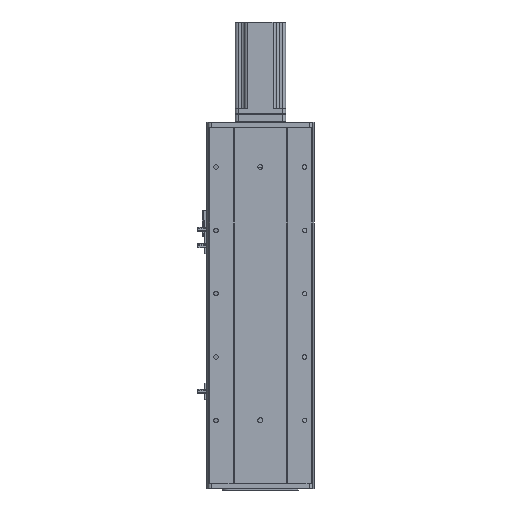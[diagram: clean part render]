
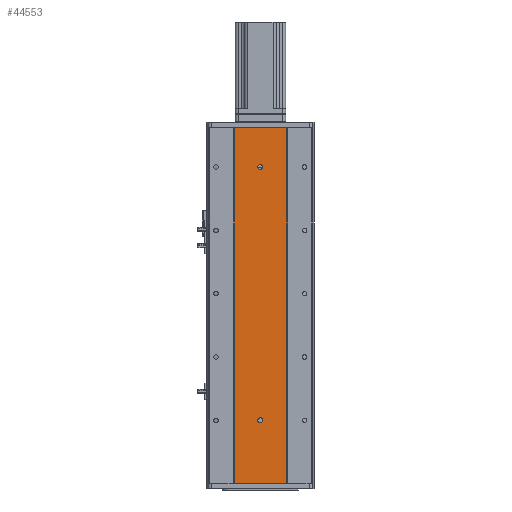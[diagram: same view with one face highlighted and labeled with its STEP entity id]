
A CAD part, front view. The second image highlights one B-rep face of the part: STEP entity #44553.
In plain terms, the highlighted planar face has unit normal (0, -1, 0).
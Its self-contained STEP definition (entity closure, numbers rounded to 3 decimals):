
#473 = ORIENTED_EDGE ( 'NONE', *, *, #31715, .T. ) ;
#491 = ORIENTED_EDGE ( 'NONE', *, *, #2208, .T. ) ;
#494 = ORIENTED_EDGE ( 'NONE', *, *, #1950, .F. ) ;
#501 = ORIENTED_EDGE ( 'NONE', *, *, #2195, .T. ) ;
#504 = ORIENTED_EDGE ( 'NONE', *, *, #2064, .T. ) ;
#525 = ORIENTED_EDGE ( 'NONE', *, *, #2193, .T. ) ;
#539 = ORIENTED_EDGE ( 'NONE', *, *, #31731, .T. ) ;
#545 = ORIENTED_EDGE ( 'NONE', *, *, #2186, .F. ) ;
#1950 = EDGE_CURVE ( 'NONE', #54570, #54618, #62409, .T. ) ;
#2064 = EDGE_CURVE ( 'NONE', #54774, #54935, #62772, .T. ) ;
#2186 = EDGE_CURVE ( 'NONE', #54618, #54935, #63355, .T. ) ;
#2193 = EDGE_CURVE ( 'NONE', #54570, #54774, #63413, .T. ) ;
#2195 = EDGE_CURVE ( 'NONE', #35185, #35018, #63447, .T. ) ;
#2208 = EDGE_CURVE ( 'NONE', #35010, #35051, #63421, .T. ) ;
#11664 = DIRECTION ( 'NONE',  ( 1., 0., 0. ) ) ;
#11718 = CARTESIAN_POINT ( 'NONE',  ( 5085.384, 335.574, 0. ) ) ;
#12326 = DIRECTION ( 'NONE',  ( 0., 0., -1. ) ) ;
#12350 = DIRECTION ( 'NONE',  ( -1., 0., 0. ) ) ;
#12364 = CARTESIAN_POINT ( 'NONE',  ( 5168.555, 335.574, 562. ) ) ;
#12368 = DIRECTION ( 'NONE',  ( 0., 0., -1. ) ) ;
#12370 = CARTESIAN_POINT ( 'NONE',  ( 5085.384, 335.574, 562. ) ) ;
#12376 = CARTESIAN_POINT ( 'NONE',  ( 5126.969, 335.574, 500. ) ) ;
#12412 = DIRECTION ( 'NONE',  ( 0., 1., 0. ) ) ;
#12529 = DIRECTION ( 'NONE',  ( -1., 0., 0. ) ) ;
#12548 = CARTESIAN_POINT ( 'NONE',  ( 5126.969, 335.574, 100. ) ) ;
#12621 = DIRECTION ( 'NONE',  ( 0., 1., 0. ) ) ;
#21529 = AXIS2_PLACEMENT_3D ( 'NONE', #53246, #53256, #53253 ) ;
#21545 = AXIS2_PLACEMENT_3D ( 'NONE', #53200, #53218, #53198 ) ;
#21923 = CARTESIAN_POINT ( 'NONE',  ( 5085.384, 335.574, 562. ) ) ;
#21962 = DIRECTION ( 'NONE',  ( 1., 0., 0. ) ) ;
#25718 = CARTESIAN_POINT ( 'NONE',  ( 5168.555, 335.574, 562. ) ) ;
#25731 = CARTESIAN_POINT ( 'NONE',  ( 5085.384, 335.574, 562. ) ) ;
#25785 = CARTESIAN_POINT ( 'NONE',  ( 5085.384, 335.574, 0. ) ) ;
#25809 = CARTESIAN_POINT ( 'NONE',  ( 5168.555, 335.574, 0. ) ) ;
#31715 = EDGE_CURVE ( 'NONE', #35051, #35010, #52099, .T. ) ;
#31731 = EDGE_CURVE ( 'NONE', #35018, #35185, #52136, .T. ) ;
#35010 = VERTEX_POINT ( 'NONE', #50660 ) ;
#35018 = VERTEX_POINT ( 'NONE', #50664 ) ;
#35051 = VERTEX_POINT ( 'NONE', #50756 ) ;
#35185 = VERTEX_POINT ( 'NONE', #50964 ) ;
#36955 = EDGE_LOOP ( 'NONE', ( #473, #491 ) ) ;
#36972 = EDGE_LOOP ( 'NONE', ( #539, #501 ) ) ;
#37047 = EDGE_LOOP ( 'NONE', ( #504, #545, #494, #525 ) ) ;
#37743 = AXIS2_PLACEMENT_3D ( 'NONE', #12548, #12621, #12529 ) ;
#37765 = AXIS2_PLACEMENT_3D ( 'NONE', #12376, #12412, #12350 ) ;
#39426 = AXIS2_PLACEMENT_3D ( 'NONE', #41031, #40992, #40986 ) ;
#40986 = DIRECTION ( 'NONE',  ( -1., 0., 0. ) ) ;
#40992 = DIRECTION ( 'NONE',  ( 0., 1., 0. ) ) ;
#41014 = PLANE ( 'NONE',  #39426 ) ;
#41031 = CARTESIAN_POINT ( 'NONE',  ( 5085.384, 335.574, 562. ) ) ;
#42276 = FACE_BOUND ( 'NONE', #36955, .T. ) ;
#42294 = FACE_OUTER_BOUND ( 'NONE', #37047, .T. ) ;
#42368 = FACE_BOUND ( 'NONE', #36972, .T. ) ;
#44553 = ADVANCED_FACE ( 'NONE', ( #42368, #42276, #42294 ), #41014, .F. ) ;
#50660 = CARTESIAN_POINT ( 'NONE',  ( 5126.969, 335.574, 104. ) ) ;
#50664 = CARTESIAN_POINT ( 'NONE',  ( 5126.969, 335.574, 496. ) ) ;
#50756 = CARTESIAN_POINT ( 'NONE',  ( 5126.969, 335.574, 96. ) ) ;
#50964 = CARTESIAN_POINT ( 'NONE',  ( 5126.969, 335.574, 504. ) ) ;
#52099 = CIRCLE ( 'NONE', #21545, 4. ) ;
#52136 = CIRCLE ( 'NONE', #21529, 4. ) ;
#53198 = DIRECTION ( 'NONE',  ( -1., 0., 0. ) ) ;
#53200 = CARTESIAN_POINT ( 'NONE',  ( 5126.969, 335.574, 100. ) ) ;
#53218 = DIRECTION ( 'NONE',  ( 0., 1., 0. ) ) ;
#53246 = CARTESIAN_POINT ( 'NONE',  ( 5126.969, 335.574, 500. ) ) ;
#53253 = DIRECTION ( 'NONE',  ( -1., 0., 0. ) ) ;
#53256 = DIRECTION ( 'NONE',  ( 0., 1., 0. ) ) ;
#54570 = VERTEX_POINT ( 'NONE', #25731 ) ;
#54618 = VERTEX_POINT ( 'NONE', #25718 ) ;
#54774 = VERTEX_POINT ( 'NONE', #25785 ) ;
#54935 = VERTEX_POINT ( 'NONE', #25809 ) ;
#62409 = LINE ( 'NONE', #21923, #62415 ) ;
#62415 = VECTOR ( 'NONE', #21962, 1000. ) ;
#62733 = VECTOR ( 'NONE', #11664, 1000. ) ;
#62772 = LINE ( 'NONE', #11718, #62733 ) ;
#63317 = VECTOR ( 'NONE', #12368, 1000. ) ;
#63355 = LINE ( 'NONE', #12364, #63317 ) ;
#63413 = LINE ( 'NONE', #12370, #63466 ) ;
#63421 = CIRCLE ( 'NONE', #37743, 4. ) ;
#63447 = CIRCLE ( 'NONE', #37765, 4. ) ;
#63466 = VECTOR ( 'NONE', #12326, 1000. ) ;
